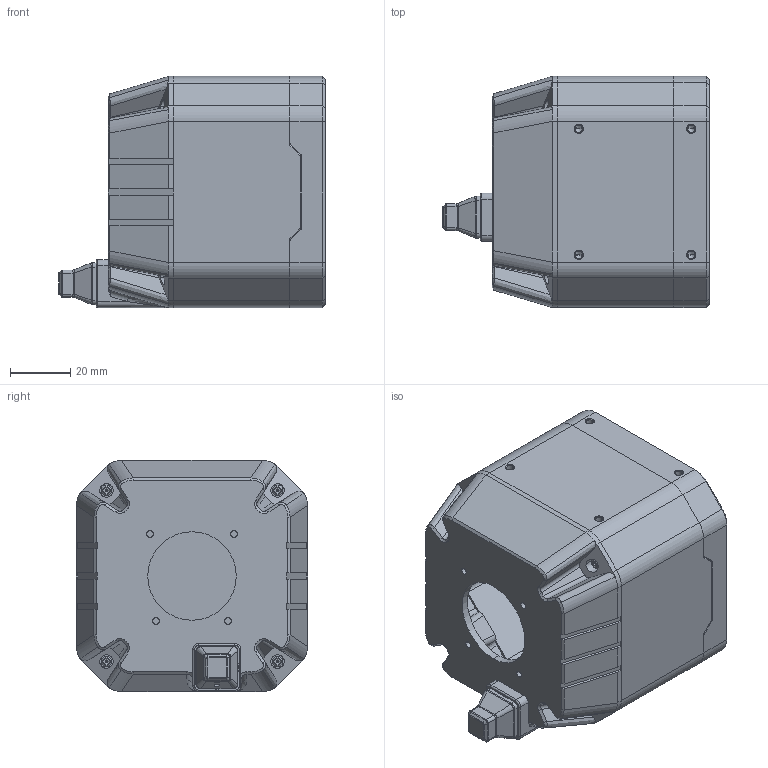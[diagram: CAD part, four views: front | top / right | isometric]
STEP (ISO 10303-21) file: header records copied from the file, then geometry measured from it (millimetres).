
FILE_DESCRIPTION((''),'2;1');
FILE_NAME('JINGTOUZHAO-MAX_ASM','2026-06-01T11:14:01',('xujianping6'),(''),'CREO PARAMETRIC BY PTC INC, 2020044','CREO PARAMETRIC BY PTC INC, 2020044','');
FILE_SCHEMA(('CONFIG_CONTROL_DESIGN'));
Length unit declared in the file: millimetre
Products named in the file (10): MIFENGDIZUO-NEW; MIFENGZHONGKUANG-NEW; MIFENGSHANGGAI-NEW; DE-20-000155_ASM; DB_GAIPIAN-MAX; SC-PM2X4_5-NI; SC-PM2X10-NI-NEW; SR-KAKOU; SR-M10-ASM_ASM; JINGTOUZHAO-MAX_ASM
Assembly tree (15 placements, depth 3):
  JINGTOUZHAO-MAX_ASM
    MIFENGDIZUO-NEW
    MIFENGZHONGKUANG-NEW
    MIFENGSHANGGAI-NEW
    DE-20-000155_ASM
    DB_GAIPIAN-MAX
    SC-PM2X4_5-NI  x4
    SC-PM2X10-NI-NEW  x4
    SR-M10-ASM_ASM
      SR-KAKOU
Bounding box: 88.8 x 77 x 77 mm (x, y, z)
Volume: 99580.6 mm3; surface area: 65844 mm2
Topology: 13 solids, 45 shells, 1386 faces, 3605 edges, 2286 vertices
Faces by surface type: plane 606, cylinder 512, cone 144, bspline 86, torus 38
Entity records: 39105 total; most frequent: CARTESIAN_POINT 13586, ORIENTED_EDGE 5298, DIRECTION 5161, EDGE_CURVE 2701, AXIS2_PLACEMENT_3D 1858, VERTEX_POINT 1728, VECTOR 1445, LINE 1445
